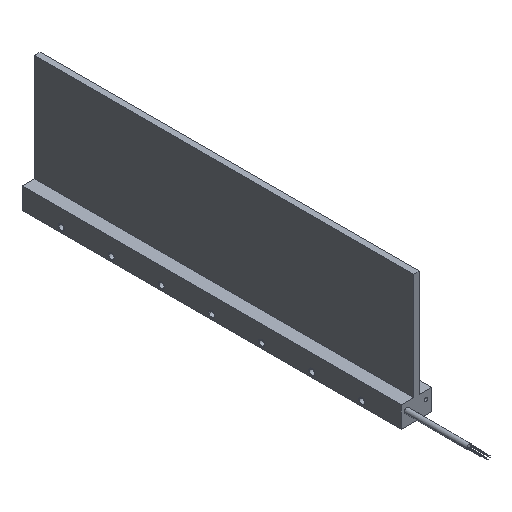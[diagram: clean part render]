
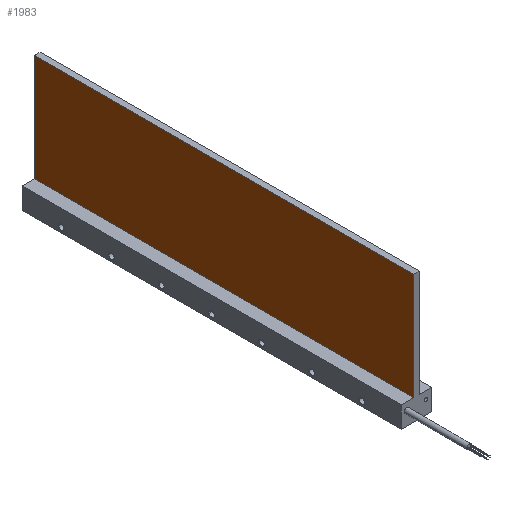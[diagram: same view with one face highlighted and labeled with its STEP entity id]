
A CAD part, isometric view. The second image highlights one B-rep face of the part: STEP entity #1983.
In plain terms, the highlighted planar face has unit normal (-1, 0, 0).
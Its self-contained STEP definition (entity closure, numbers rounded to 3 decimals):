
#21=DIRECTION('',(0.,0.,1.));
#22=VECTOR('',#21,85.3);
#23=CARTESIAN_POINT('',(-2.2,-151.41,0.));
#24=LINE('',#23,#22);
#71=DIRECTION('',(0.,1.,0.));
#72=VECTOR('',#71,302.82);
#73=CARTESIAN_POINT('',(-2.2,-151.41,85.3));
#74=LINE('',#73,#72);
#75=DIRECTION('',(0.,1.,0.));
#76=VECTOR('',#75,302.82);
#77=CARTESIAN_POINT('',(-2.2,-151.41,0.));
#78=LINE('',#77,#76);
#367=DIRECTION('',(0.,0.,1.));
#368=VECTOR('',#367,85.3);
#369=CARTESIAN_POINT('',(-2.2,151.41,0.));
#370=LINE('',#369,#368);
#1479=CARTESIAN_POINT('',(-2.2,-151.41,0.));
#1480=VERTEX_POINT('',#1479);
#1481=CARTESIAN_POINT('',(-2.2,-151.41,85.3));
#1482=VERTEX_POINT('',#1481);
#1495=CARTESIAN_POINT('',(-2.2,151.41,0.));
#1496=VERTEX_POINT('',#1495);
#1497=CARTESIAN_POINT('',(-2.2,151.41,85.3));
#1498=VERTEX_POINT('',#1497);
#1970=CARTESIAN_POINT('',(-2.2,-151.41,0.));
#1971=DIRECTION('',(-1.,0.,0.));
#1972=DIRECTION('',(0.,0.,1.));
#1973=AXIS2_PLACEMENT_3D('',#1970,#1971,#1972);
#1974=PLANE('',#1973);
#1975=ORIENTED_EDGE('',*,*,#1900,.F.);
#1977=ORIENTED_EDGE('',*,*,#1976,.T.);
#1979=ORIENTED_EDGE('',*,*,#1978,.T.);
#1980=ORIENTED_EDGE('',*,*,#1962,.F.);
#1981=EDGE_LOOP('',(#1975,#1977,#1979,#1980));
#1982=FACE_OUTER_BOUND('',#1981,.F.);
#1983=ADVANCED_FACE('',(#1982),#1974,.T.);
#1900=EDGE_CURVE('',#1480,#1482,#24,.T.);
#1962=EDGE_CURVE('',#1482,#1498,#74,.T.);
#1976=EDGE_CURVE('',#1480,#1496,#78,.T.);
#1978=EDGE_CURVE('',#1496,#1498,#370,.T.);
